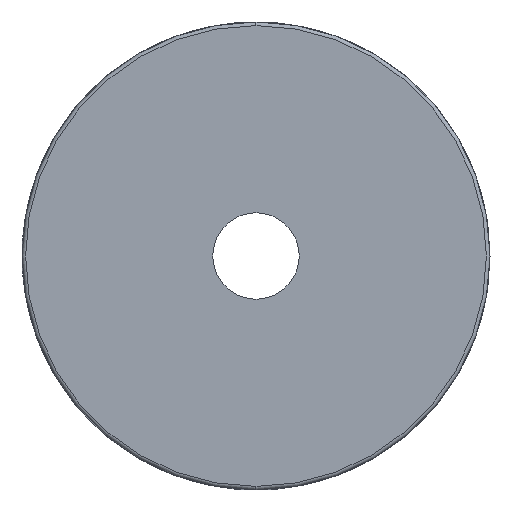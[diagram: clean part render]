
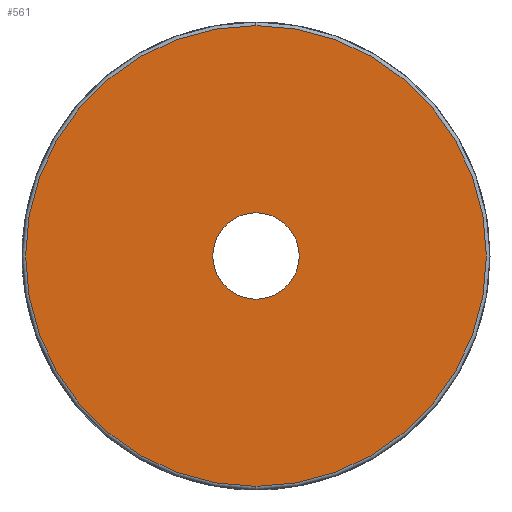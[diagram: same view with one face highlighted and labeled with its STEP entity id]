
A CAD part, left-side view. The second image highlights one B-rep face of the part: STEP entity #561.
In plain terms, the highlighted planar face has unit normal (-1, 0, 0).
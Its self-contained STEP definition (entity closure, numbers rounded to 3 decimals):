
#503 = VERTEX_POINT ( 'NONE', #1839 ) ;
#505 = EDGE_CURVE ( 'NONE', #503, #506, #1820, .T. ) ;
#506 = VERTEX_POINT ( 'NONE', #1815 ) ;
#561 = ADVANCED_FACE ( 'NONE', ( #1803, #1802 ), #1801, .F. ) ;
#562 = EDGE_LOOP ( 'NONE', ( #563, #670 ) ) ;
#563 = ORIENTED_EDGE ( 'NONE', *, *, #564, .T. ) ;
#564 = EDGE_CURVE ( 'NONE', #706, #705, #1796, .T. ) ;
#565 = EDGE_LOOP ( 'NONE', ( #671, #673 ) ) ;
#670 = ORIENTED_EDGE ( 'NONE', *, *, #704, .T. ) ;
#671 = ORIENTED_EDGE ( 'NONE', *, *, #672, .F. ) ;
#672 = EDGE_CURVE ( 'NONE', #506, #503, #1949, .T. ) ;
#673 = ORIENTED_EDGE ( 'NONE', *, *, #505, .F. ) ;
#704 = EDGE_CURVE ( 'NONE', #705, #706, #2093, .T. ) ;
#705 = VERTEX_POINT ( 'NONE', #2088 ) ;
#706 = VERTEX_POINT ( 'NONE', #2087 ) ;
#1792 = DIRECTION ( 'NONE',  ( 0., 0., -1. ) ) ;
#1793 = DIRECTION ( 'NONE',  ( -1., 0., 0. ) ) ;
#1794 = CARTESIAN_POINT ( 'NONE',  ( 0., 0., 0. ) ) ;
#1795 = AXIS2_PLACEMENT_3D ( 'NONE', #1794, #1793, #1792 ) ;
#1796 = CIRCLE ( 'NONE', #1795, 32. ) ;
#1797 = DIRECTION ( 'NONE',  ( 0., 0., -1. ) ) ;
#1798 = DIRECTION ( 'NONE',  ( 1., 0., 0. ) ) ;
#1799 = CARTESIAN_POINT ( 'NONE',  ( 0., 0., 0. ) ) ;
#1800 = AXIS2_PLACEMENT_3D ( 'NONE', #1799, #1798, #1797 ) ;
#1801 = PLANE ( 'NONE',  #1800 ) ;
#1802 = FACE_BOUND ( 'NONE', #565, .T. ) ;
#1803 = FACE_OUTER_BOUND ( 'NONE', #562, .T. ) ;
#1815 = CARTESIAN_POINT ( 'NONE',  ( 0., 0., 6. ) ) ;
#1816 = DIRECTION ( 'NONE',  ( 0., 0., 1. ) ) ;
#1817 = DIRECTION ( 'NONE',  ( -1., 0., 0. ) ) ;
#1818 = CARTESIAN_POINT ( 'NONE',  ( 0., 0., 0. ) ) ;
#1819 = AXIS2_PLACEMENT_3D ( 'NONE', #1818, #1817, #1816 ) ;
#1820 = CIRCLE ( 'NONE', #1819, 6. ) ;
#1839 = CARTESIAN_POINT ( 'NONE',  ( 0., 0., -6. ) ) ;
#1945 = DIRECTION ( 'NONE',  ( 0., 0., 1. ) ) ;
#1946 = DIRECTION ( 'NONE',  ( -1., 0., 0. ) ) ;
#1947 = CARTESIAN_POINT ( 'NONE',  ( 0., 0., 0. ) ) ;
#1948 = AXIS2_PLACEMENT_3D ( 'NONE', #1947, #1946, #1945 ) ;
#1949 = CIRCLE ( 'NONE', #1948, 6. ) ;
#2087 = CARTESIAN_POINT ( 'NONE',  ( 0., 0., -32. ) ) ;
#2088 = CARTESIAN_POINT ( 'NONE',  ( 0., 0., 32. ) ) ;
#2089 = DIRECTION ( 'NONE',  ( 0., 0., -1. ) ) ;
#2090 = DIRECTION ( 'NONE',  ( -1., 0., 0. ) ) ;
#2091 = CARTESIAN_POINT ( 'NONE',  ( 0., 0., 0. ) ) ;
#2092 = AXIS2_PLACEMENT_3D ( 'NONE', #2091, #2090, #2089 ) ;
#2093 = CIRCLE ( 'NONE', #2092, 32. ) ;
